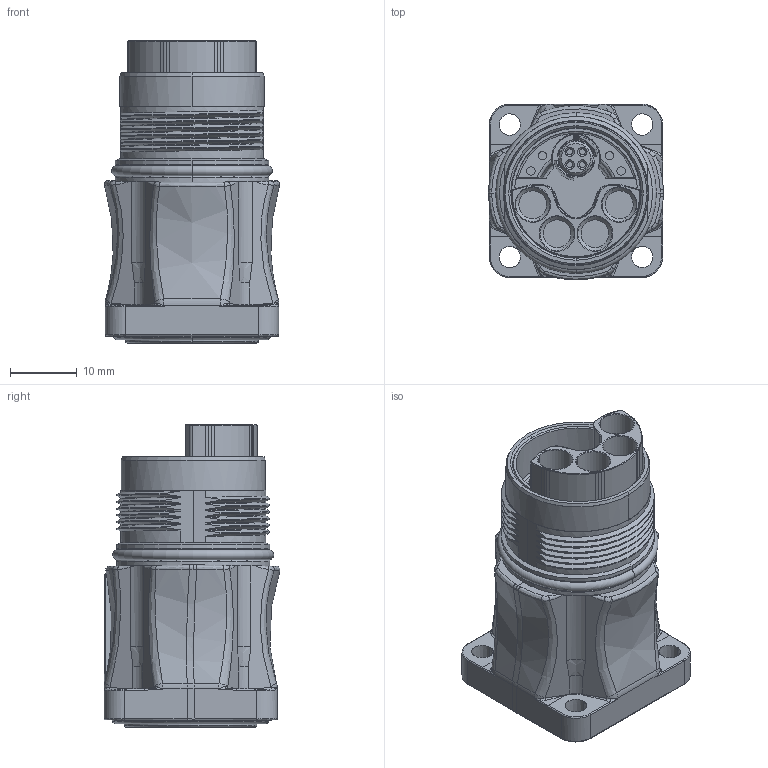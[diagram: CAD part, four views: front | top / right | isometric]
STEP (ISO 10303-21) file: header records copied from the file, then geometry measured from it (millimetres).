
FILE_DESCRIPTION((''),'2;1');
FILE_NAME('SH-8EPC58AWA00S','2014-04-22T',('vbengel'),(''),'PRO/ENGINEER BY PARAMETRIC TECHNOLOGY CORPORATION, 2013230','PRO/ENGINEER BY PARAMETRIC TECHNOLOGY CORPORATION, 2013230','');
FILE_SCHEMA(('AUTOMOTIVE_DESIGN { 1 0 10303 214 1 1 1 1 }'));
Products named in the file (1): SH-8EPC58AWA00S
Bounding box: 26.17 x 26.3 x 45.15 mm (x, y, z)
Volume: 16424 mm3; surface area: 8049.3 mm2
Topology: 1 solids, 1 shells, 1069 faces, 2674 edges, 1613 vertices
Faces by surface type: bspline 314, cylinder 296, plane 205, torus 157, cone 81, sphere 16
Entity records: 53749 total; most frequent: CARTESIAN_POINT 22845, ORIENTED_EDGE 5332, DIRECTION 4457, EDGE_CURVE 2666, AXIS2_PLACEMENT_3D 1826, VERTEX_POINT 1613, EDGE_LOOP 1113, CIRCLE 1071
